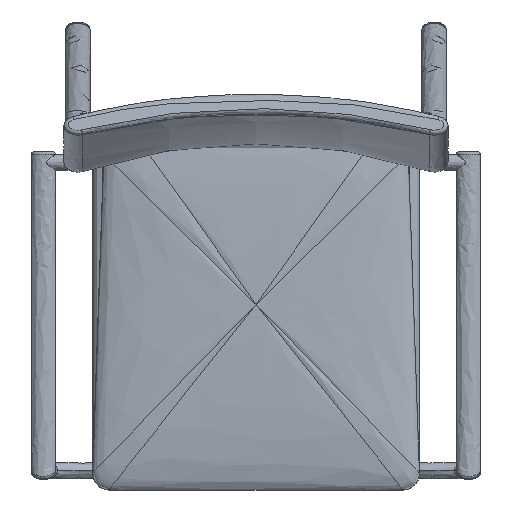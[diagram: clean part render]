
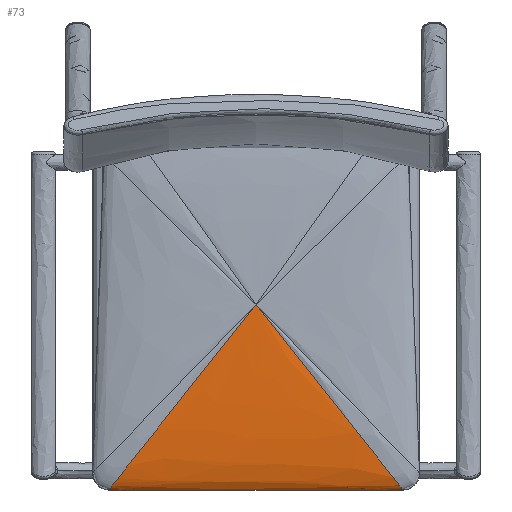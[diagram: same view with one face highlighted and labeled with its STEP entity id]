
A CAD part, top view. The second image highlights one B-rep face of the part: STEP entity #73.
In plain terms, the highlighted free-form (B-spline) face has degree [1, 2] with [2, 3] control points.
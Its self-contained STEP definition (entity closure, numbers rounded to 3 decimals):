
#73=ADVANCED_FACE('',(#250),#2606,.T.);
#250=FACE_OUTER_BOUND('',#427,.T.);
#427=EDGE_LOOP('',(#620,#621,#622));
#620=ORIENTED_EDGE('',*,*,#1440,.T.);
#621=ORIENTED_EDGE('',*,*,#1439,.F.);
#622=ORIENTED_EDGE('',*,*,#1426,.F.);
#1426=EDGE_CURVE('',#2350,#2351,#2123,.T.);
#1439=EDGE_CURVE('',#2351,#2357,#2132,.T.);
#1440=EDGE_CURVE('',#2350,#2357,#1891,.T.);
#1891=B_SPLINE_CURVE_WITH_KNOTS('',1,(#3070,#3071),.UNSPECIFIED.,.F.,.F.,
(2,2),(0.,360.024),.UNSPECIFIED.);
#2123=(
BOUNDED_CURVE()
B_SPLINE_CURVE(2,(#3026,#3027,#3028),.UNSPECIFIED.,.F.,.F.)
B_SPLINE_CURVE_WITH_KNOTS((3,3),(0.,317.126),.UNSPECIFIED.)
CURVE()
GEOMETRIC_REPRESENTATION_ITEM()
RATIONAL_B_SPLINE_CURVE((1.,1.,1.))
REPRESENTATION_ITEM('')
);
#2132=(
BOUNDED_CURVE()
B_SPLINE_CURVE(2,(#3067,#3068,#3069),.UNSPECIFIED.,.F.,.F.)
B_SPLINE_CURVE_WITH_KNOTS((3,3),(-317.125,0.),.UNSPECIFIED.)
CURVE()
GEOMETRIC_REPRESENTATION_ITEM()
RATIONAL_B_SPLINE_CURVE((1.,1.,1.))
REPRESENTATION_ITEM('')
);
#2350=VERTEX_POINT('',#3013);
#2351=VERTEX_POINT('',#3014);
#2357=VERTEX_POINT('',#3020);
#2606=B_SPLINE_SURFACE_WITH_KNOTS('',1,2,((#2928,#2929,#2930),(#2931,#2932,
#2933)),.UNSPECIFIED.,.F.,.F.,.F.,(2,2),(3,3),(0.,360.024),(0.,
309.487),.UNSPECIFIED.);
#2928=CARTESIAN_POINT('',(-180.012,-573.501,447.166));
#2929=CARTESIAN_POINT('',(-180.012,-573.012,467.16));
#2930=CARTESIAN_POINT('',(0.,-346.368,461.625));
#2931=CARTESIAN_POINT('',(180.012,-573.501,447.166));
#2932=CARTESIAN_POINT('',(180.012,-573.012,467.16));
#2933=CARTESIAN_POINT('',(0.,-346.368,461.625));
#3013=CARTESIAN_POINT('',(-180.012,-573.501,447.166));
#3014=CARTESIAN_POINT('',(0.,-346.368,461.625));
#3020=CARTESIAN_POINT('',(180.012,-573.501,447.166));
#3026=CARTESIAN_POINT('',(-180.012,-573.501,447.166));
#3027=CARTESIAN_POINT('',(-180.012,-573.012,467.16));
#3028=CARTESIAN_POINT('',(0.,-346.368,461.625));
#3067=CARTESIAN_POINT('',(0.,-346.368,461.625));
#3068=CARTESIAN_POINT('',(180.012,-573.012,467.16));
#3069=CARTESIAN_POINT('',(180.012,-573.501,447.166));
#3070=CARTESIAN_POINT('',(-180.012,-573.501,447.166));
#3071=CARTESIAN_POINT('',(180.012,-573.501,447.166));
